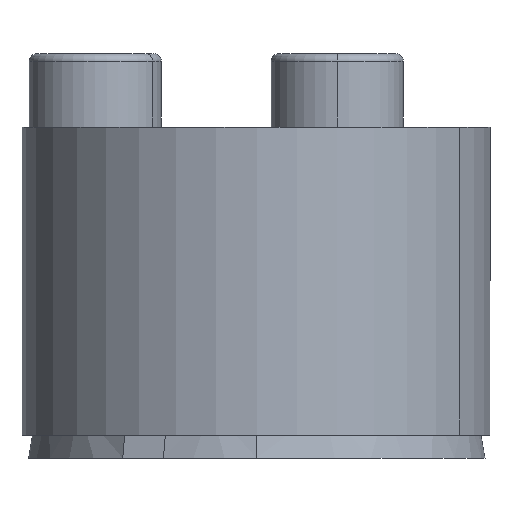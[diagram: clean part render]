
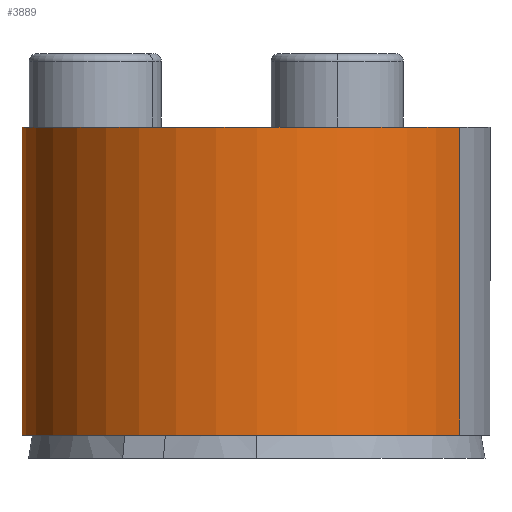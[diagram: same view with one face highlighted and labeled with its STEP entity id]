
A CAD part, left-side view. The second image highlights one B-rep face of the part: STEP entity #3889.
In plain terms, the highlighted cylindrical face has radius 8 mm (diameter 16 mm), a partial arc.
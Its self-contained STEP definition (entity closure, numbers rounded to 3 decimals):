
#183 = CARTESIAN_POINT ( 'NONE',  ( 0., 0., 0.788 ) ) ;
#509 = VERTEX_POINT ( 'NONE', #3550 ) ;
#515 = AXIS2_PLACEMENT_3D ( 'NONE', #2783, #4583, #572 ) ;
#516 = AXIS2_PLACEMENT_3D ( 'NONE', #2046, #2031, #2028 ) ;
#572 = DIRECTION ( 'NONE',  ( -0.5, -0.866, 0. ) ) ;
#631 = DIRECTION ( 'NONE',  ( 0.5, 0.866, 0. ) ) ;
#655 = ORIENTED_EDGE ( 'NONE', *, *, #699, .T. ) ;
#699 = EDGE_CURVE ( 'NONE', #3129, #5702, #5285, .T. ) ;
#1015 = CIRCLE ( 'NONE', #2920, 8. ) ;
#1448 = DIRECTION ( 'NONE',  ( 0., 0., 1. ) ) ;
#1454 = CYLINDRICAL_SURFACE ( 'NONE', #515, 8. ) ;
#1552 = DIRECTION ( 'NONE',  ( 0., 0., 1. ) ) ;
#1880 = VECTOR ( 'NONE', #1448, 1000. ) ;
#1895 = CARTESIAN_POINT ( 'NONE',  ( -4., -6.928, 0.788 ) ) ;
#2028 = DIRECTION ( 'NONE',  ( 0.5, 0.866, 0. ) ) ;
#2031 = DIRECTION ( 'NONE',  ( 0., 0., -1. ) ) ;
#2046 = CARTESIAN_POINT ( 'NONE',  ( 0., 0., 11.288 ) ) ;
#2304 = EDGE_CURVE ( 'NONE', #509, #3129, #3357, .T. ) ;
#2532 = CARTESIAN_POINT ( 'NONE',  ( -4., -6.928, 11.288 ) ) ;
#2783 = CARTESIAN_POINT ( 'NONE',  ( 0., 0., 0.788 ) ) ;
#2920 = AXIS2_PLACEMENT_3D ( 'NONE', #183, #3321, #631 ) ;
#3024 = EDGE_CURVE ( 'NONE', #4267, #5702, #4343, .T. ) ;
#3129 = VERTEX_POINT ( 'NONE', #2532 ) ;
#3321 = DIRECTION ( 'NONE',  ( 0., 0., -1. ) ) ;
#3357 = LINE ( 'NONE', #1895, #1880 ) ;
#3550 = CARTESIAN_POINT ( 'NONE',  ( -4., -6.928, 0.788 ) ) ;
#3740 = ORIENTED_EDGE ( 'NONE', *, *, #2304, .T. ) ;
#3804 = CARTESIAN_POINT ( 'NONE',  ( 4., 6.928, 0.788 ) ) ;
#3889 = ADVANCED_FACE ( 'NONE', ( #5441 ), #1454, .T. ) ;
#3934 = EDGE_CURVE ( 'NONE', #509, #4267, #1015, .T. ) ;
#4267 = VERTEX_POINT ( 'NONE', #4941 ) ;
#4343 = LINE ( 'NONE', #3804, #5383 ) ;
#4527 = ORIENTED_EDGE ( 'NONE', *, *, #3024, .F. ) ;
#4583 = DIRECTION ( 'NONE',  ( 0., 0., 1. ) ) ;
#4941 = CARTESIAN_POINT ( 'NONE',  ( 4., 6.928, 0.788 ) ) ;
#5077 = ORIENTED_EDGE ( 'NONE', *, *, #3934, .F. ) ;
#5094 = CARTESIAN_POINT ( 'NONE',  ( 4., 6.928, 11.288 ) ) ;
#5182 = EDGE_LOOP ( 'NONE', ( #4527, #5077, #3740, #655 ) ) ;
#5285 = CIRCLE ( 'NONE', #516, 8. ) ;
#5383 = VECTOR ( 'NONE', #1552, 1000. ) ;
#5441 = FACE_OUTER_BOUND ( 'NONE', #5182, .T. ) ;
#5702 = VERTEX_POINT ( 'NONE', #5094 ) ;
